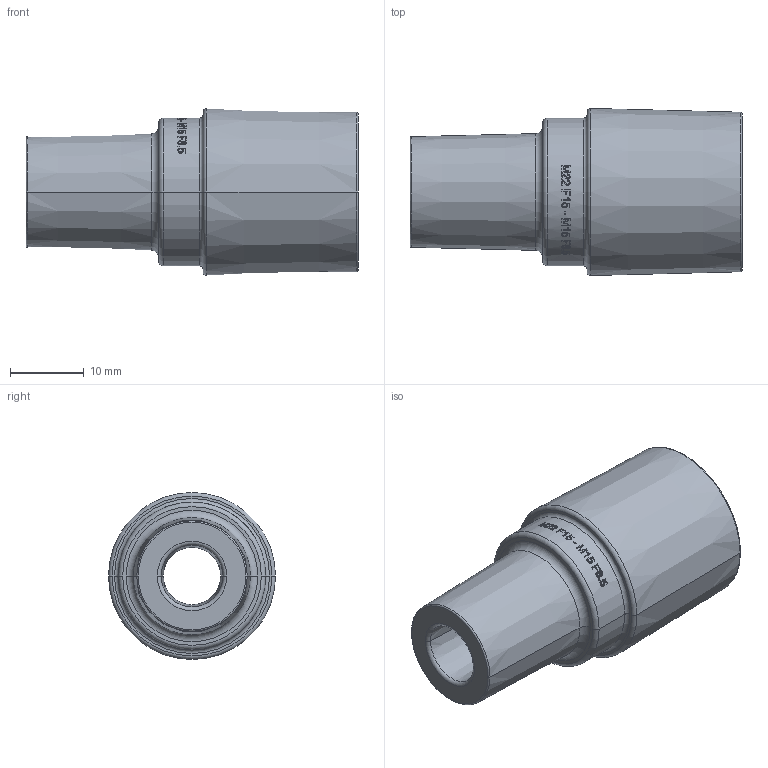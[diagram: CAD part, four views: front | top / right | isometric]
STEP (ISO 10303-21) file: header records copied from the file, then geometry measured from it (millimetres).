
FILE_DESCRIPTION(/* description */ (''),/* implementation_level */ '2;1');
FILE_NAME(/* name */ 'ISO 5356 M22 F15 - M15 F8,5_GgCV19.stp',/* time_stamp */ '2020-03-26T20:37:55+01:00',/* author */ (''),/* organization */ (''),/* preprocessor_version */ 'ST-DEVELOPER v16.7',/* originating_system */ 'SIEMENS PLM Software NX 12.0',/* authorisation */ '');
FILE_SCHEMA (('AUTOMOTIVE_DESIGN { 1 0 10303 214 3 1 1 1 }'));
Length unit declared in the file: millimetre
Products named in the file (1): ISO5356 - copia
Bounding box: 45 x 22.64 x 22.64 mm (x, y, z)
Volume: 7884.4 mm3; surface area: 4877.6 mm2
Topology: 1 solids, 1 shells, 224 faces, 566 edges, 372 vertices
Faces by surface type: plane 141, extrusion 43, torus 20, cylinder 10, cone 10
Entity records: 8126 total; most frequent: CARTESIAN_POINT 3203, ORIENTED_EDGE 1128, DIRECTION 769, EDGE_CURVE 564, VERTEX_POINT 371, B_SPLINE_CURVE_WITH_KNOTS 334, AXIS2_PLACEMENT_3D 271, EDGE_LOOP 255
